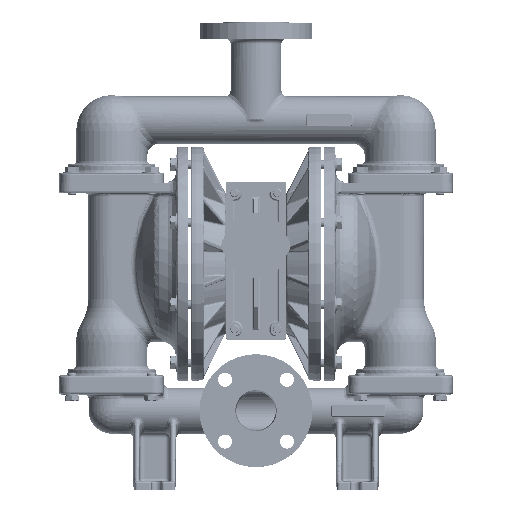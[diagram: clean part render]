
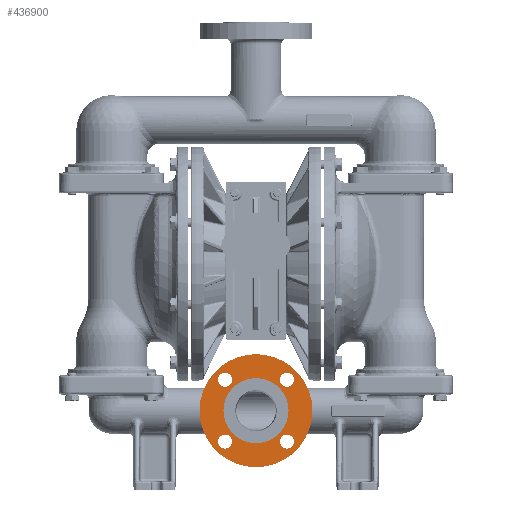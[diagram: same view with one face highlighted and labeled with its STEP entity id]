
A CAD part, top view. The second image highlights one B-rep face of the part: STEP entity #436900.
In plain terms, the highlighted planar face has unit normal (0, 0, 1).
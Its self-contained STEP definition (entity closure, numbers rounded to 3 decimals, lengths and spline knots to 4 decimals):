
#107456=CARTESIAN_POINT('',(0.,-6.51,3.18));
#107457=DIRECTION('',(0.,0.,-1.));
#107458=DIRECTION('',(0.,1.,0.));
#107459=AXIS2_PLACEMENT_3D('',#107456,#107457,#107458);
#107461=CARTESIAN_POINT('',(0.,-6.51,3.18));
#107462=DIRECTION('',(0.,0.,1.));
#107463=DIRECTION('',(0.,1.,0.));
#107464=AXIS2_PLACEMENT_3D('',#107461,#107462,#107463);
#107466=CARTESIAN_POINT('',(1.37,-5.14,3.18));
#107467=DIRECTION('',(0.,0.,-1.));
#107468=DIRECTION('',(-1.,0.,0.));
#107469=AXIS2_PLACEMENT_3D('',#107466,#107467,#107468);
#107471=CARTESIAN_POINT('',(1.37,-5.14,3.18));
#107472=DIRECTION('',(0.,0.,-1.));
#107473=DIRECTION('',(1.,0.,0.));
#107474=AXIS2_PLACEMENT_3D('',#107471,#107472,#107473);
#107476=CARTESIAN_POINT('',(1.37,-7.88,3.18));
#107477=DIRECTION('',(0.,0.,-1.));
#107478=DIRECTION('',(-1.,0.,0.));
#107479=AXIS2_PLACEMENT_3D('',#107476,#107477,#107478);
#107481=CARTESIAN_POINT('',(1.37,-7.88,3.18));
#107482=DIRECTION('',(0.,0.,-1.));
#107483=DIRECTION('',(1.,0.,0.));
#107484=AXIS2_PLACEMENT_3D('',#107481,#107482,#107483);
#107486=CARTESIAN_POINT('',(-1.37,-7.88,3.18));
#107487=DIRECTION('',(0.,0.,-1.));
#107488=DIRECTION('',(-1.,0.,0.));
#107489=AXIS2_PLACEMENT_3D('',#107486,#107487,#107488);
#107491=CARTESIAN_POINT('',(-1.37,-7.88,3.18));
#107492=DIRECTION('',(0.,0.,-1.));
#107493=DIRECTION('',(1.,0.,0.));
#107494=AXIS2_PLACEMENT_3D('',#107491,#107492,#107493);
#107496=CARTESIAN_POINT('',(-1.37,-5.14,3.18));
#107497=DIRECTION('',(0.,0.,-1.));
#107498=DIRECTION('',(-1.,0.,0.));
#107499=AXIS2_PLACEMENT_3D('',#107496,#107497,#107498);
#107501=CARTESIAN_POINT('',(-1.37,-5.14,3.18));
#107502=DIRECTION('',(0.,0.,-1.));
#107503=DIRECTION('',(1.,0.,0.));
#107504=AXIS2_PLACEMENT_3D('',#107501,#107502,#107503);
#107506=CARTESIAN_POINT('',(0.,-6.51,3.18));
#107507=DIRECTION('',(0.,0.,-1.));
#107508=DIRECTION('',(0.,1.,0.));
#107509=AXIS2_PLACEMENT_3D('',#107506,#107507,#107508);
#107516=CARTESIAN_POINT('',(0.,-6.51,3.18));
#107517=DIRECTION('',(0.,0.,-1.));
#107518=DIRECTION('',(0.,-1.,0.));
#107519=AXIS2_PLACEMENT_3D('',#107516,#107517,#107518);
#349607=CARTESIAN_POINT('',(0.,-5.07,3.18));
#349609=VERTEX_POINT('',#349607);
#349611=CARTESIAN_POINT('',(0.,-7.95,3.18));
#349613=VERTEX_POINT('',#349611);
#349614=CARTESIAN_POINT('',(0.,-4.01,3.18));
#349615=CARTESIAN_POINT('',(0.,-9.01,3.18));
#349616=VERTEX_POINT('',#349614);
#349617=VERTEX_POINT('',#349615);
#349626=CARTESIAN_POINT('',(1.0575,-5.14,3.18));
#349627=CARTESIAN_POINT('',(1.6825,-5.14,3.18));
#349628=VERTEX_POINT('',#349626);
#349629=VERTEX_POINT('',#349627);
#349634=CARTESIAN_POINT('',(1.0575,-7.88,3.18));
#349635=CARTESIAN_POINT('',(1.6825,-7.88,3.18));
#349636=VERTEX_POINT('',#349634);
#349637=VERTEX_POINT('',#349635);
#349642=CARTESIAN_POINT('',(-1.6825,-7.88,3.18));
#349643=CARTESIAN_POINT('',(-1.0575,-7.88,3.18));
#349644=VERTEX_POINT('',#349642);
#349645=VERTEX_POINT('',#349643);
#349650=CARTESIAN_POINT('',(-1.6825,-5.14,3.18));
#349651=CARTESIAN_POINT('',(-1.0575,-5.14,3.18));
#349652=VERTEX_POINT('',#349650);
#349653=VERTEX_POINT('',#349651);
#436861=CARTESIAN_POINT('',(0.,-6.51,3.18));
#436862=DIRECTION('',(0.,0.,-1.));
#436863=DIRECTION('',(0.,-1.,0.));
#436864=AXIS2_PLACEMENT_3D('',#436861,#436862,#436863);
#436865=PLANE('',#436864);
#436867=ORIENTED_EDGE('',*,*,#436866,.T.);
#436869=ORIENTED_EDGE('',*,*,#436868,.T.);
#436870=EDGE_LOOP('',(#436867,#436869));
#436871=FACE_OUTER_BOUND('',#436870,.F.);
#436872=ORIENTED_EDGE('',*,*,#436854,.F.);
#436873=ORIENTED_EDGE('',*,*,#436843,.T.);
#436874=EDGE_LOOP('',(#436872,#436873));
#436875=FACE_BOUND('',#436874,.F.);
#436877=ORIENTED_EDGE('',*,*,#436876,.F.);
#436879=ORIENTED_EDGE('',*,*,#436878,.F.);
#436880=EDGE_LOOP('',(#436877,#436879));
#436881=FACE_BOUND('',#436880,.F.);
#436883=ORIENTED_EDGE('',*,*,#436882,.F.);
#436885=ORIENTED_EDGE('',*,*,#436884,.F.);
#436886=EDGE_LOOP('',(#436883,#436885));
#436887=FACE_BOUND('',#436886,.F.);
#436889=ORIENTED_EDGE('',*,*,#436888,.F.);
#436891=ORIENTED_EDGE('',*,*,#436890,.F.);
#436892=EDGE_LOOP('',(#436889,#436891));
#436893=FACE_BOUND('',#436892,.F.);
#436895=ORIENTED_EDGE('',*,*,#436894,.F.);
#436897=ORIENTED_EDGE('',*,*,#436896,.F.);
#436898=EDGE_LOOP('',(#436895,#436897));
#436899=FACE_BOUND('',#436898,.F.);
#436900=ADVANCED_FACE('',(#436871,#436875,#436881,#436887,#436893,#436899),
#436865,.F.);
#107460=CIRCLE('',#107459,1.44);
#107465=CIRCLE('',#107464,1.44);
#107470=CIRCLE('',#107469,0.3125);
#107475=CIRCLE('',#107474,0.3125);
#107480=CIRCLE('',#107479,0.3125);
#107485=CIRCLE('',#107484,0.3125);
#107490=CIRCLE('',#107489,0.3125);
#107495=CIRCLE('',#107494,0.3125);
#107500=CIRCLE('',#107499,0.3125);
#107505=CIRCLE('',#107504,0.3125);
#107510=CIRCLE('',#107509,2.5);
#107520=CIRCLE('',#107519,2.5);
#436843=EDGE_CURVE('',#349609,#349613,#107465,.T.);
#436854=EDGE_CURVE('',#349609,#349613,#107460,.T.);
#436866=EDGE_CURVE('',#349616,#349617,#107510,.T.);
#436868=EDGE_CURVE('',#349617,#349616,#107520,.T.);
#436876=EDGE_CURVE('',#349628,#349629,#107470,.T.);
#436878=EDGE_CURVE('',#349629,#349628,#107475,.T.);
#436882=EDGE_CURVE('',#349636,#349637,#107480,.T.);
#436884=EDGE_CURVE('',#349637,#349636,#107485,.T.);
#436888=EDGE_CURVE('',#349644,#349645,#107490,.T.);
#436890=EDGE_CURVE('',#349645,#349644,#107495,.T.);
#436894=EDGE_CURVE('',#349652,#349653,#107500,.T.);
#436896=EDGE_CURVE('',#349653,#349652,#107505,.T.);
